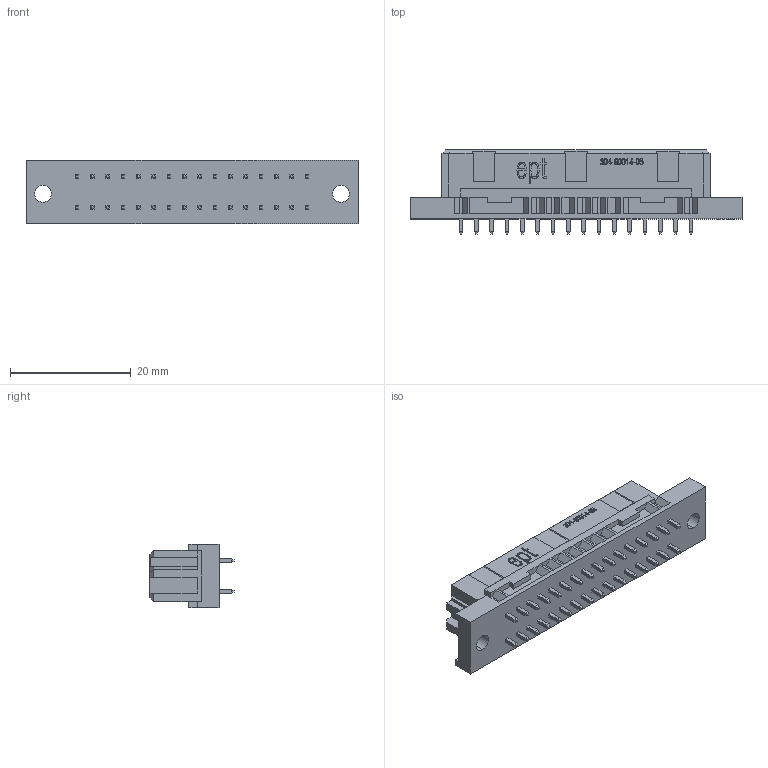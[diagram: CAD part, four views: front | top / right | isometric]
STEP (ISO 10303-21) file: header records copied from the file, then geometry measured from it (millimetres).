
FILE_DESCRIPTION (( 'STEP AP214' ), '1' );
FILE_NAME ('304-90014-05_C_3D.STEP', '2012-06-22T09:25:29', ( ' ' ), ( ' ' ), 'SwSTEP 2.0', 'SolidWorks 2010', '' );
FILE_SCHEMA (( 'AUTOMOTIVE_DESIGN' ));
Length unit declared in the file: millimetre
Products named in the file (1): 304-90014-05_C_3D
Bounding box: 55 x 13.95 x 10.5 mm (x, y, z)
Volume: 4664.8 mm3; surface area: 3067.5 mm2
Topology: 1 solids, 1 shells, 1126 faces, 2680 edges, 1676 vertices
Faces by surface type: plane 1017, bspline 105, cylinder 4
Entity records: 37233 total; most frequent: CARTESIAN_POINT 11868, ORIENTED_EDGE 5360, DIRECTION 4522, EDGE_CURVE 2680, LINE 2462, VECTOR 2462, VERTEX_POINT 1676, EDGE_LOOP 1250
